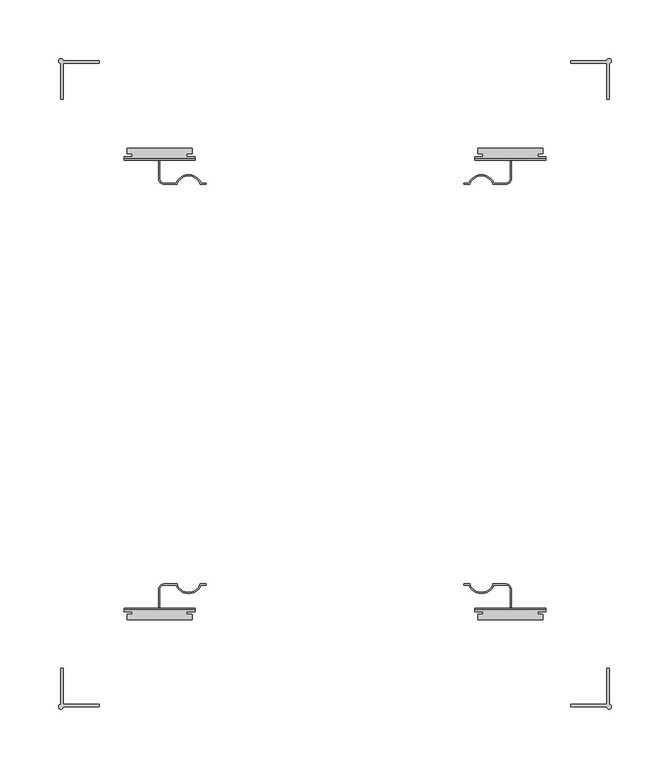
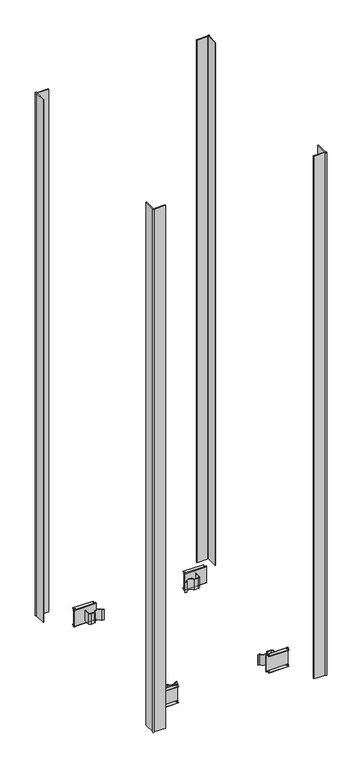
"""IFC4 building model written with IfcOpenShell, lengths in millimetres: column geometry, Облицовка колонн : КНАУФ-Файерборд три слоя."""

from ifc_helpers import new_model, si_unit, point, frame, frame_2d, origin, origin_with_axes, place, context, project, spatial, polyline, circle_curve, trimmed, segment, composite_curve, outline, extrude, source, transform, mapped, element, save
from ifc_brep_helpers import plane_surface, cylinder_surface, advanced_brep


def column_57e66f01(model_context):
    return source(origin(), model_context, "Body", "SolidModel", [
        extrude(outline(composite_curve([segment(polyline([(-201.5, -274.0), (-201.5, -276.0311253), (-232.5, -276.0311253)]), True, "CONTINUOUS"), segment(trimmed(circle_curve(frame_2d((-234.4874508, -276.0311253)), 1.9874508), [point((-232.5, -276.0311253))], [point((-234.4874508, -274.0436745))], False, "CARTESIAN"), True, "CONTINUOUS"), segment(polyline([(-234.4874508, -274.0436745), (-234.4874508, -243.0), (-232.5, -243.0), (-232.5, -274.0), (-201.5, -274.0)]), True, "CONTINUOUS")], self_intersect=False)), origin_with_axes(), (0.0, 0.0, 1.0), 1500.0),
        extrude(outline(composite_curve([segment(polyline([(-201.5, 274.0), (-232.5, 274.0), (-232.5, 243.0), (-234.4874508, 243.0), (-234.4874508, 274.0436745)]), True, "CONTINUOUS"), segment(trimmed(circle_curve(frame_2d((-234.4874508, 276.0311253)), 1.9874508), [point((-234.4874508, 274.0436745))], [point((-232.5, 276.0311253))], False, "CARTESIAN"), True, "CONTINUOUS"), segment(polyline([(-232.5, 276.0311253), (-201.5, 276.0311253), (-201.5, 274.0)]), True, "CONTINUOUS")], self_intersect=False)), origin_with_axes(), (0.0, 0.0, 1.0), 1500.0),
        extrude(outline(composite_curve([segment(polyline([(201.5, -274.0), (232.5, -274.0), (232.5, -243.0), (234.4874508, -243.0), (234.4874508, -274.0436745)]), True, "CONTINUOUS"), segment(trimmed(circle_curve(frame_2d((234.4874508, -276.0311253)), 1.9874508), [point((234.4874508, -274.0436745))], [point((232.5, -276.0311253))], False, "CARTESIAN"), True, "CONTINUOUS"), segment(polyline([(232.5, -276.0311253), (201.5, -276.0311253), (201.5, -274.0)]), True, "CONTINUOUS")], self_intersect=False)), origin_with_axes(), (0.0, 0.0, 1.0), 1500.0),
        extrude(outline(composite_curve([segment(polyline([(201.5, 274.0), (201.5, 276.0311253), (232.5, 276.0311253)]), True, "CONTINUOUS"), segment(trimmed(circle_curve(frame_2d((234.4874508, 276.0311253)), 1.9874508), [point((232.5, 276.0311253))], [point((234.4874508, 274.0436745))], False, "CARTESIAN"), True, "CONTINUOUS"), segment(polyline([(234.4874508, 274.0436745), (234.4874508, 243.0), (232.5, 243.0), (232.5, 274.0), (201.5, 274.0)]), True, "CONTINUOUS")], self_intersect=False)), origin_with_axes(), (0.0, 0.0, 1.0), 1500.0),
        advanced_brep(
        [(-180.2, 191.5, 46.0), (-180.2, 192.5, 47.0), (-180.2, 194.5, 47.0), (-180.2, 194.5, 46.0), (-180.2, 192.5, 46.0), (-180.2, 192.5, 0.0), (-180.2, 194.5, 0.0), (-180.2, 194.5, -1.0), (-180.2, 192.5, -1.0), (-180.2, 191.5, 0.0), (-119.8, 191.5, 46.0), (-119.8, 191.5, 0.0), (-119.8, 192.5, -1.0), (-119.8, 194.5, -1.0), (-119.8, 194.5, 0.0), (-119.8, 192.5, 0.0), (-119.8, 192.5, 46.0), (-119.8, 194.5, 46.0), (-119.8, 194.5, 47.0), (-119.8, 192.5, 47.0), (-126.6838154, 194.5, 47.0), (-126.6838154, 196.8, 47.0), (-122.2, 196.8, 47.0), (-122.2, 201.5, 47.0), (-177.8, 201.5, 47.0), (-177.8, 196.8, 47.0), (-173.3161846, 196.8, 47.0), (-173.3161846, 194.5, 47.0), (-177.8, 201.5, 46.0), (-122.2, 201.5, 46.0), (-173.3161846, 194.5, 46.0), (-173.3161846, 196.8, 46.0), (-177.8, 196.8, 46.0), (-122.2, 196.8, 46.0), (-126.6838154, 196.8, 46.0), (-126.6838154, 194.5, 46.0), (-126.6838154, 194.5, 0.0), (-126.6838154, 196.8, 0.0), (-122.2, 196.8, 0.0), (-122.2, 201.5, 0.0), (-177.8, 201.5, 0.0), (-177.8, 196.8, 0.0), (-173.3161846, 196.8, 0.0), (-173.3161846, 194.5, 0.0), (-177.8, 201.5, -1.0), (-122.2, 201.5, -1.0), (-173.3161846, 194.5, -1.0), (-173.3161846, 196.8, -1.0), (-177.8, 196.8, -1.0), (-122.2, 196.8, -1.0), (-126.6838154, 196.8, -1.0), (-126.6838154, 194.5, -1.0)],
        [
            (0, 1, circle_curve(frame((-180.2, 192.5, 46.0), z_axis=(-1.0, 0.0, 0.0), x_axis=(0.0, -1.0, 0.0)), 1.0)),
            (1, 2),
            (2, 3),
            (3, 4),
            (4, 5),
            (5, 6),
            (6, 7),
            (7, 8),
            (8, 9, circle_curve(frame((-180.2, 192.5, 0.0), z_axis=(-1.0, 0.0, 0.0), x_axis=(0.0, -1.0, 0.0)), 1.0)),
            (9, 0),
            (10, 11),
            (11, 12, circle_curve(frame((-119.8, 192.5, 0.0), z_axis=(1.0, 0.0, 0.0), x_axis=(0.0, -1.0, 0.0)), 1.0)),
            (12, 13),
            (13, 14),
            (14, 15),
            (15, 16),
            (16, 17),
            (17, 18),
            (18, 19),
            (19, 10, circle_curve(frame((-119.8, 192.5, 46.0), z_axis=(1.0, 0.0, 0.0), x_axis=(0.0, -1.0, 0.0)), 1.0)),
            (0, 10),
            (19, 1),
            (18, 20),
            (20, 21),
            (21, 22),
            (22, 23),
            (23, 24),
            (24, 25),
            (25, 26),
            (26, 27),
            (27, 2),
            (28, 24),
            (23, 29),
            (29, 28),
            (16, 4),
            (3, 30),
            (30, 31),
            (31, 32),
            (32, 28),
            (29, 33),
            (33, 34),
            (34, 35),
            (35, 17),
            (15, 5),
            (14, 36),
            (36, 37),
            (37, 38),
            (38, 39),
            (39, 40),
            (40, 41),
            (41, 42),
            (42, 43),
            (43, 6),
            (44, 40),
            (39, 45),
            (45, 44),
            (12, 8),
            (7, 46),
            (46, 47),
            (47, 48),
            (48, 44),
            (45, 49),
            (49, 50),
            (50, 51),
            (51, 13),
            (11, 9),
            (30, 27),
            (26, 31),
            (46, 43),
            (42, 47),
            (25, 32),
            (41, 48),
            (34, 21),
            (20, 35),
            (50, 37),
            (36, 51),
            (33, 22),
            (49, 38),
        ],
        [
            plane_surface(frame((-180.2, 191.5, 46.0), z_axis=(-1.0, 0.0, 0.0), x_axis=(0.0, 0.0, 1.0))),
            plane_surface(frame((-119.8, 191.5, 46.0), z_axis=(1.0, 0.0, 0.0), x_axis=(0.0, 0.0, -1.0))),
            cylinder_surface(frame((-119.8, 192.5, 46.0), z_axis=(-1.0, 0.0, 0.0), x_axis=(0.0, -1.0, 0.0)), 1.0),
            plane_surface(frame((-180.2, 192.5, 47.0), z_axis=(0.0, 0.0, 1.0), x_axis=(1.0, 0.0, 0.0))),
            plane_surface(frame((-180.2, 201.5, 47.0), z_axis=(0.0, 1.0, 0.0), x_axis=(1.0, 0.0, 0.0))),
            plane_surface(frame((-180.2, 201.5, 46.0), z_axis=(0.0, 0.0, -1.0), x_axis=(1.0, 0.0, 0.0))),
            plane_surface(frame((-180.2, 192.5, 46.0), z_axis=(0.0, 1.0, 0.0), x_axis=(1.0, 0.0, 0.0))),
            plane_surface(frame((-180.2, 192.5, 0.0), z_axis=(0.0, 0.0, 1.0), x_axis=(1.0, 0.0, 0.0))),
            plane_surface(frame((-180.2, 201.5, 0.0), z_axis=(0.0, 1.0, 0.0), x_axis=(1.0, 0.0, 0.0))),
            plane_surface(frame((-180.2, 201.5, -1.0), z_axis=(0.0, 0.0, -1.0), x_axis=(1.0, 0.0, 0.0))),
            cylinder_surface(frame((-119.8, 192.5, 0.0), z_axis=(-1.0, 0.0, 0.0), x_axis=(0.0, -1.0, 0.0)), 1.0),
            plane_surface(frame((-180.2, 191.5, 0.0), z_axis=(0.0, -1.0, 0.0), x_axis=(1.0, 0.0, 0.0))),
            plane_surface(frame((-173.3161846, 194.5, 47.0), z_axis=(-1.0, 0.0, 0.0), x_axis=(0.0, 0.0, -1.0))),
            plane_surface(frame((-173.3161846, 196.8, 47.0), z_axis=(0.0, -1.0, 0.0), x_axis=(0.0, 0.0, -1.0))),
            plane_surface(frame((-177.8, 196.8, 47.0), z_axis=(-1.0, 0.0, 0.0), x_axis=(0.0, 0.0, -1.0))),
            plane_surface(frame((-180.2, 194.5, 47.0), z_axis=(0.0, 1.0, 0.0), x_axis=(0.0, 0.0, -1.0))),
            plane_surface(frame((-126.6838154, 196.8, 47.0), z_axis=(1.0, 0.0, 0.0), x_axis=(0.0, 0.0, -1.0))),
            plane_surface(frame((-122.2, 196.8, 47.0), z_axis=(0.0, -1.0, 0.0), x_axis=(0.0, 0.0, -1.0))),
            plane_surface(frame((-122.2, 201.5, 47.0), z_axis=(1.0, 0.0, 0.0), x_axis=(0.0, 0.0, -1.0))),
            plane_surface(frame((-126.6838154, 194.5, 47.0), z_axis=(0.0, 1.0, 0.0), x_axis=(0.0, 0.0, -1.0))),
        ],
        [
            (0, [[1, 2, 3, 4, 5, 6, 7, 8, 9, 10]]),
            (1, [[11, 12, 13, 14, 15, 16, 17, 18, 19, 20]]),
            (2, [[-1, 21, -20, 22]]),
            (3, [[-22, -19, 23, 24, 25, 26, 27, 28, 29, 30, 31, -2]]),
            (4, [[32, -27, 33, 34]]),
            (5, [[35, -4, 36, 37, 38, 39, -34, 40, 41, 42, 43, -17]]),
            (6, [[-5, -35, -16, 44]]),
            (7, [[-44, -15, 45, 46, 47, 48, 49, 50, 51, 52, 53, -6]]),
            (8, [[54, -49, 55, 56]]),
            (9, [[57, -8, 58, 59, 60, 61, -56, 62, 63, 64, 65, -13]]),
            (10, [[-9, -57, -12, 66]]),
            (11, [[-10, -66, -11, -21]]),
            (12, [[67, -30, 68, -37]]),
            (12, [[69, -52, 70, -59]]),
            (13, [[-68, -29, 71, -38]]),
            (13, [[-70, -51, 72, -60]]),
            (14, [[-71, -28, -32, -39]]),
            (14, [[-72, -50, -54, -61]]),
            (15, [[-67, -36, -3, -31]]),
            (15, [[-69, -58, -7, -53]]),
            (16, [[73, -24, 74, -42]]),
            (16, [[75, -46, 76, -64]]),
            (17, [[-73, -41, 77, -25]]),
            (17, [[-75, -63, 78, -47]]),
            (18, [[-77, -40, -33, -26]]),
            (18, [[-78, -62, -55, -48]]),
            (19, [[-74, -23, -18, -43]]),
            (19, [[-76, -45, -14, -65]]),
        ],
    ),
        extrude(outline(composite_curve([segment(trimmed(circle_curve(frame_2d((-125.2, 167.4974781)), 10.5025219), [point((-115.2, 170.7073015))], [point((-135.2, 170.7073015))], True, "CARTESIAN"), True, "CONTINUOUS"), segment(polyline([(-135.2, 170.7073015), (-146.0, 170.7073015)]), True, "CONTINUOUS"), segment(trimmed(circle_curve(frame_2d((-146.0, 175.7073015)), 5.0), [point((-146.0, 170.7073015))], [point((-151.0, 175.7073015))], False, "CARTESIAN"), True, "CONTINUOUS"), segment(polyline([(-151.0, 175.7073015), (-151.0, 191.5), (-150.0, 191.5), (-150.0, 175.7073015)]), True, "CONTINUOUS"), segment(trimmed(circle_curve(frame_2d((-146.0, 175.7073015)), 4.0), [point((-150.0, 175.7073015))], [point((-146.0, 171.7073015))], True, "CARTESIAN"), True, "CONTINUOUS"), segment(polyline([(-146.0, 171.7073015), (-135.9044569, 171.7073015)]), True, "CONTINUOUS"), segment(trimmed(circle_curve(frame_2d((-125.2, 167.4974781)), 11.5025219), [point((-135.9044569, 171.7073015))], [point((-114.4955431, 171.7073015))], False, "CARTESIAN"), True, "CONTINUOUS"), segment(polyline([(-114.4955431, 171.7073015), (-110.2, 171.7073015), (-110.2, 170.7073015), (-115.2, 170.7073015)]), True, "CONTINUOUS")], self_intersect=False)), frame((0.0, 0.0, 8.0), z_axis=(0.0, 0.0, 1.0), x_axis=(1.0, 0.0, 0.0)), (0.0, 0.0, 1.0), 30.0),
        advanced_brep(
        [(180.2, 191.5, 46.0), (180.2, 191.5, 0.0), (180.2, 192.5, -1.0), (180.2, 194.5, -1.0), (180.2, 194.5, 0.0), (180.2, 192.5, 0.0), (180.2, 192.5, 46.0), (180.2, 194.5, 46.0), (180.2, 194.5, 47.0), (180.2, 192.5, 47.0), (119.8, 191.5, 46.0), (119.8, 192.5, 47.0), (119.8, 194.5, 47.0), (119.8, 194.5, 46.0), (119.8, 192.5, 46.0), (119.8, 192.5, 0.0), (119.8, 194.5, 0.0), (119.8, 194.5, -1.0), (119.8, 192.5, -1.0), (119.8, 191.5, 0.0), (173.3161846, 194.5, 47.0), (173.3161846, 196.8, 47.0), (177.8, 196.8, 47.0), (177.8, 201.5, 47.0), (122.2, 201.5, 47.0), (122.2, 196.8, 47.0), (126.6838154, 196.8, 47.0), (126.6838154, 194.5, 47.0), (177.8, 201.5, 46.0), (122.2, 201.5, 46.0), (126.6838154, 194.5, 46.0), (126.6838154, 196.8, 46.0), (122.2, 196.8, 46.0), (177.8, 196.8, 46.0), (173.3161846, 196.8, 46.0), (173.3161846, 194.5, 46.0), (173.3161846, 194.5, 0.0), (173.3161846, 196.8, 0.0), (177.8, 196.8, 0.0), (177.8, 201.5, 0.0), (122.2, 201.5, 0.0), (122.2, 196.8, 0.0), (126.6838154, 196.8, 0.0), (126.6838154, 194.5, 0.0), (177.8, 201.5, -1.0), (122.2, 201.5, -1.0), (126.6838154, 194.5, -1.0), (126.6838154, 196.8, -1.0), (122.2, 196.8, -1.0), (177.8, 196.8, -1.0), (173.3161846, 196.8, -1.0), (173.3161846, 194.5, -1.0)],
        [
            (0, 1),
            (1, 2, circle_curve(frame((180.2, 192.5, 0.0), z_axis=(1.0, 0.0, 0.0), x_axis=(0.0, -1.0, 0.0)), 1.0)),
            (2, 3),
            (3, 4),
            (4, 5),
            (5, 6),
            (6, 7),
            (7, 8),
            (8, 9),
            (9, 0, circle_curve(frame((180.2, 192.5, 46.0), z_axis=(1.0, 0.0, 0.0), x_axis=(0.0, -1.0, 0.0)), 1.0)),
            (10, 11, circle_curve(frame((119.8, 192.5, 46.0), z_axis=(-1.0, 0.0, 0.0), x_axis=(0.0, -1.0, 0.0)), 1.0)),
            (11, 12),
            (12, 13),
            (13, 14),
            (14, 15),
            (15, 16),
            (16, 17),
            (17, 18),
            (18, 19, circle_curve(frame((119.8, 192.5, 0.0), z_axis=(-1.0, 0.0, 0.0), x_axis=(0.0, -1.0, 0.0)), 1.0)),
            (19, 10),
            (9, 11),
            (10, 0),
            (8, 20),
            (20, 21),
            (21, 22),
            (22, 23),
            (23, 24),
            (24, 25),
            (25, 26),
            (26, 27),
            (27, 12),
            (28, 29),
            (29, 24),
            (23, 28),
            (13, 30),
            (30, 31),
            (31, 32),
            (32, 29),
            (28, 33),
            (33, 34),
            (34, 35),
            (35, 7),
            (6, 14),
            (5, 15),
            (4, 36),
            (36, 37),
            (37, 38),
            (38, 39),
            (39, 40),
            (40, 41),
            (41, 42),
            (42, 43),
            (43, 16),
            (44, 45),
            (45, 40),
            (39, 44),
            (17, 46),
            (46, 47),
            (47, 48),
            (48, 45),
            (44, 49),
            (49, 50),
            (50, 51),
            (51, 3),
            (2, 18),
            (1, 19),
            (34, 21),
            (20, 35),
            (50, 37),
            (36, 51),
            (33, 22),
            (49, 38),
            (30, 27),
            (26, 31),
            (46, 43),
            (42, 47),
            (25, 32),
            (41, 48),
        ],
        [
            plane_surface(frame((180.2, 191.5, 46.0), z_axis=(1.0, 0.0, 0.0), x_axis=(0.0, 0.0, 1.0))),
            plane_surface(frame((119.8, 191.5, 46.0), z_axis=(-1.0, 0.0, 0.0), x_axis=(0.0, 0.0, -1.0))),
            cylinder_surface(frame((119.8, 192.5, 46.0), z_axis=(1.0, 0.0, 0.0), x_axis=(0.0, -1.0, 0.0)), 1.0),
            plane_surface(frame((180.2, 192.5, 47.0), z_axis=(0.0, 0.0, 1.0), x_axis=(-1.0, 0.0, 0.0))),
            plane_surface(frame((180.2, 201.5, 47.0), z_axis=(0.0, 1.0, 0.0), x_axis=(-1.0, 0.0, 0.0))),
            plane_surface(frame((180.2, 201.5, 46.0), z_axis=(0.0, 0.0, -1.0), x_axis=(-1.0, 0.0, 0.0))),
            plane_surface(frame((180.2, 192.5, 46.0), z_axis=(0.0, 1.0, 0.0), x_axis=(-1.0, 0.0, 0.0))),
            plane_surface(frame((180.2, 192.5, 0.0), z_axis=(0.0, 0.0, 1.0), x_axis=(-1.0, 0.0, 0.0))),
            plane_surface(frame((180.2, 201.5, 0.0), z_axis=(0.0, 1.0, 0.0), x_axis=(-1.0, 0.0, 0.0))),
            plane_surface(frame((180.2, 201.5, -1.0), z_axis=(0.0, 0.0, -1.0), x_axis=(-1.0, 0.0, 0.0))),
            cylinder_surface(frame((119.8, 192.5, 0.0), z_axis=(1.0, 0.0, 0.0), x_axis=(0.0, -1.0, 0.0)), 1.0),
            plane_surface(frame((180.2, 191.5, 0.0), z_axis=(0.0, -1.0, 0.0), x_axis=(-1.0, 0.0, 0.0))),
            plane_surface(frame((173.3161846, 194.5, 47.0), z_axis=(1.0, 0.0, 0.0), x_axis=(0.0, 0.0, -1.0))),
            plane_surface(frame((173.3161846, 196.8, 47.0), z_axis=(0.0, -1.0, 0.0), x_axis=(0.0, 0.0, -1.0))),
            plane_surface(frame((177.8, 196.8, 47.0), z_axis=(1.0, 0.0, 0.0), x_axis=(0.0, 0.0, -1.0))),
            plane_surface(frame((180.2, 194.5, 47.0), z_axis=(0.0, 1.0, 0.0), x_axis=(0.0, 0.0, -1.0))),
            plane_surface(frame((126.6838154, 196.8, 47.0), z_axis=(-1.0, 0.0, 0.0), x_axis=(0.0, 0.0, -1.0))),
            plane_surface(frame((122.2, 196.8, 47.0), z_axis=(0.0, -1.0, 0.0), x_axis=(0.0, 0.0, -1.0))),
            plane_surface(frame((122.2, 201.5, 47.0), z_axis=(-1.0, 0.0, 0.0), x_axis=(0.0, 0.0, -1.0))),
            plane_surface(frame((126.6838154, 194.5, 47.0), z_axis=(0.0, 1.0, 0.0), x_axis=(0.0, 0.0, -1.0))),
        ],
        [
            (0, [[1, 2, 3, 4, 5, 6, 7, 8, 9, 10]]),
            (1, [[11, 12, 13, 14, 15, 16, 17, 18, 19, 20]]),
            (2, [[21, -11, 22, -10]]),
            (3, [[-9, 23, 24, 25, 26, 27, 28, 29, 30, 31, -12, -21]]),
            (4, [[32, 33, -27, 34]]),
            (5, [[-14, 35, 36, 37, 38, -32, 39, 40, 41, 42, -7, 43]]),
            (6, [[44, -15, -43, -6]]),
            (7, [[-5, 45, 46, 47, 48, 49, 50, 51, 52, 53, -16, -44]]),
            (8, [[54, 55, -49, 56]]),
            (9, [[-18, 57, 58, 59, 60, -54, 61, 62, 63, 64, -3, 65]]),
            (10, [[66, -19, -65, -2]]),
            (11, [[-22, -20, -66, -1]]),
            (12, [[-41, 67, -24, 68]]),
            (12, [[-63, 69, -46, 70]]),
            (13, [[-40, 71, -25, -67]]),
            (13, [[-62, 72, -47, -69]]),
            (14, [[-39, -34, -26, -71]]),
            (14, [[-61, -56, -48, -72]]),
            (15, [[-23, -8, -42, -68]]),
            (15, [[-45, -4, -64, -70]]),
            (16, [[-36, 73, -30, 74]]),
            (16, [[-58, 75, -52, 76]]),
            (17, [[-29, 77, -37, -74]]),
            (17, [[-51, 78, -59, -76]]),
            (18, [[-28, -33, -38, -77]]),
            (18, [[-50, -55, -60, -78]]),
            (19, [[-35, -13, -31, -73]]),
            (19, [[-57, -17, -53, -75]]),
        ],
    ),
        extrude(outline(composite_curve([segment(polyline([(115.2, 170.7073015), (110.2, 170.7073015), (110.2, 171.7073015), (114.4955431, 171.7073015)]), True, "CONTINUOUS"), segment(trimmed(circle_curve(frame_2d((125.2, 167.4974781)), 11.5025219), [point((114.4955431, 171.7073015))], [point((135.9044569, 171.7073015))], False, "CARTESIAN"), True, "CONTINUOUS"), segment(polyline([(135.9044569, 171.7073015), (146.0, 171.7073015)]), True, "CONTINUOUS"), segment(trimmed(circle_curve(frame_2d((146.0, 175.7073015)), 4.0), [point((146.0, 171.7073015))], [point((150.0, 175.7073015))], True, "CARTESIAN"), True, "CONTINUOUS"), segment(polyline([(150.0, 175.7073015), (150.0, 191.5), (151.0, 191.5), (151.0, 175.7073015)]), True, "CONTINUOUS"), segment(trimmed(circle_curve(frame_2d((146.0, 175.7073015)), 5.0), [point((151.0, 175.7073015))], [point((146.0, 170.7073015))], False, "CARTESIAN"), True, "CONTINUOUS"), segment(polyline([(146.0, 170.7073015), (135.2, 170.7073015)]), True, "CONTINUOUS"), segment(trimmed(circle_curve(frame_2d((125.2, 167.4974781)), 10.5025219), [point((135.2, 170.7073015))], [point((115.2, 170.7073015))], True, "CARTESIAN"), True, "CONTINUOUS")], self_intersect=False)), frame((0.0, 0.0, 8.0), z_axis=(0.0, 0.0, 1.0), x_axis=(1.0, 0.0, 0.0)), (0.0, 0.0, 1.0), 30.0),
        advanced_brep(
        [(-180.2, -191.5, 46.0), (-180.2, -191.5, 0.0), (-180.2, -192.5, -1.0), (-180.2, -194.5, -1.0), (-180.2, -194.5, 0.0), (-180.2, -192.5, 0.0), (-180.2, -192.5, 46.0), (-180.2, -194.5, 46.0), (-180.2, -194.5, 47.0), (-180.2, -192.5, 47.0), (-119.8, -191.5, 46.0), (-119.8, -192.5, 47.0), (-119.8, -194.5, 47.0), (-119.8, -194.5, 46.0), (-119.8, -192.5, 46.0), (-119.8, -192.5, 0.0), (-119.8, -194.5, 0.0), (-119.8, -194.5, -1.0), (-119.8, -192.5, -1.0), (-119.8, -191.5, 0.0), (-173.3161846, -194.5, 47.0), (-173.3161846, -196.8, 47.0), (-177.8, -196.8, 47.0), (-177.8, -201.5, 47.0), (-122.2, -201.5, 47.0), (-122.2, -196.8, 47.0), (-126.6838154, -196.8, 47.0), (-126.6838154, -194.5, 47.0), (-177.8, -201.5, 46.0), (-122.2, -201.5, 46.0), (-126.6838154, -194.5, 46.0), (-126.6838154, -196.8, 46.0), (-122.2, -196.8, 46.0), (-177.8, -196.8, 46.0), (-173.3161846, -196.8, 46.0), (-173.3161846, -194.5, 46.0), (-173.3161846, -194.5, 0.0), (-173.3161846, -196.8, 0.0), (-177.8, -196.8, 0.0), (-177.8, -201.5, 0.0), (-122.2, -201.5, 0.0), (-122.2, -196.8, 0.0), (-126.6838154, -196.8, 0.0), (-126.6838154, -194.5, 0.0), (-177.8, -201.5, -1.0), (-122.2, -201.5, -1.0), (-126.6838154, -194.5, -1.0), (-126.6838154, -196.8, -1.0), (-122.2, -196.8, -1.0), (-177.8, -196.8, -1.0), (-173.3161846, -196.8, -1.0), (-173.3161846, -194.5, -1.0)],
        [
            (0, 1),
            (1, 2, circle_curve(frame((-180.2, -192.5, 0.0), z_axis=(-1.0, 0.0, 0.0), x_axis=(0.0, 1.0, 0.0)), 1.0)),
            (2, 3),
            (3, 4),
            (4, 5),
            (5, 6),
            (6, 7),
            (7, 8),
            (8, 9),
            (9, 0, circle_curve(frame((-180.2, -192.5, 46.0), z_axis=(-1.0, 0.0, 0.0), x_axis=(0.0, 1.0, 0.0)), 1.0)),
            (10, 11, circle_curve(frame((-119.8, -192.5, 46.0), z_axis=(1.0, 0.0, 0.0), x_axis=(0.0, 1.0, 0.0)), 1.0)),
            (11, 12),
            (12, 13),
            (13, 14),
            (14, 15),
            (15, 16),
            (16, 17),
            (17, 18),
            (18, 19, circle_curve(frame((-119.8, -192.5, 0.0), z_axis=(1.0, 0.0, 0.0), x_axis=(0.0, 1.0, 0.0)), 1.0)),
            (19, 10),
            (9, 11),
            (10, 0),
            (8, 20),
            (20, 21),
            (21, 22),
            (22, 23),
            (23, 24),
            (24, 25),
            (25, 26),
            (26, 27),
            (27, 12),
            (28, 29),
            (29, 24),
            (23, 28),
            (13, 30),
            (30, 31),
            (31, 32),
            (32, 29),
            (28, 33),
            (33, 34),
            (34, 35),
            (35, 7),
            (6, 14),
            (5, 15),
            (4, 36),
            (36, 37),
            (37, 38),
            (38, 39),
            (39, 40),
            (40, 41),
            (41, 42),
            (42, 43),
            (43, 16),
            (44, 45),
            (45, 40),
            (39, 44),
            (17, 46),
            (46, 47),
            (47, 48),
            (48, 45),
            (44, 49),
            (49, 50),
            (50, 51),
            (51, 3),
            (2, 18),
            (1, 19),
            (34, 21),
            (20, 35),
            (50, 37),
            (36, 51),
            (33, 22),
            (49, 38),
            (30, 27),
            (26, 31),
            (46, 43),
            (42, 47),
            (25, 32),
            (41, 48),
        ],
        [
            plane_surface(frame((-180.2, -191.5, 46.0), z_axis=(-1.0, 0.0, 0.0), x_axis=(0.0, 0.0, 1.0))),
            plane_surface(frame((-119.8, -191.5, 46.0), z_axis=(1.0, 0.0, 0.0), x_axis=(0.0, 0.0, -1.0))),
            cylinder_surface(frame((-119.8, -192.5, 46.0), z_axis=(-1.0, 0.0, 0.0), x_axis=(0.0, 1.0, 0.0)), 1.0),
            plane_surface(frame((-180.2, -192.5, 47.0), z_axis=(0.0, 0.0, 1.0), x_axis=(1.0, 0.0, 0.0))),
            plane_surface(frame((-180.2, -201.5, 47.0), z_axis=(0.0, -1.0, 0.0), x_axis=(1.0, 0.0, 0.0))),
            plane_surface(frame((-180.2, -201.5, 46.0), z_axis=(0.0, 0.0, -1.0), x_axis=(1.0, 0.0, 0.0))),
            plane_surface(frame((-180.2, -192.5, 46.0), z_axis=(0.0, -1.0, 0.0), x_axis=(1.0, 0.0, 0.0))),
            plane_surface(frame((-180.2, -192.5, 0.0), z_axis=(0.0, 0.0, 1.0), x_axis=(1.0, 0.0, 0.0))),
            plane_surface(frame((-180.2, -201.5, 0.0), z_axis=(0.0, -1.0, 0.0), x_axis=(1.0, 0.0, 0.0))),
            plane_surface(frame((-180.2, -201.5, -1.0), z_axis=(0.0, 0.0, -1.0), x_axis=(1.0, 0.0, 0.0))),
            cylinder_surface(frame((-119.8, -192.5, 0.0), z_axis=(-1.0, 0.0, 0.0), x_axis=(0.0, 1.0, 0.0)), 1.0),
            plane_surface(frame((-180.2, -191.5, 0.0), z_axis=(0.0, 1.0, 0.0), x_axis=(1.0, 0.0, 0.0))),
            plane_surface(frame((-173.3161846, -194.5, 47.0), z_axis=(-1.0, 0.0, 0.0), x_axis=(0.0, 0.0, -1.0))),
            plane_surface(frame((-173.3161846, -196.8, 47.0), z_axis=(0.0, 1.0, 0.0), x_axis=(0.0, 0.0, -1.0))),
            plane_surface(frame((-177.8, -196.8, 47.0), z_axis=(-1.0, 0.0, 0.0), x_axis=(0.0, 0.0, -1.0))),
            plane_surface(frame((-180.2, -194.5, 47.0), z_axis=(0.0, -1.0, 0.0), x_axis=(0.0, 0.0, -1.0))),
            plane_surface(frame((-126.6838154, -196.8, 47.0), z_axis=(1.0, 0.0, 0.0), x_axis=(0.0, 0.0, -1.0))),
            plane_surface(frame((-122.2, -196.8, 47.0), z_axis=(0.0, 1.0, 0.0), x_axis=(0.0, 0.0, -1.0))),
            plane_surface(frame((-122.2, -201.5, 47.0), z_axis=(1.0, 0.0, 0.0), x_axis=(0.0, 0.0, -1.0))),
            plane_surface(frame((-126.6838154, -194.5, 47.0), z_axis=(0.0, -1.0, 0.0), x_axis=(0.0, 0.0, -1.0))),
        ],
        [
            (0, [[1, 2, 3, 4, 5, 6, 7, 8, 9, 10]]),
            (1, [[11, 12, 13, 14, 15, 16, 17, 18, 19, 20]]),
            (2, [[21, -11, 22, -10]]),
            (3, [[-9, 23, 24, 25, 26, 27, 28, 29, 30, 31, -12, -21]]),
            (4, [[32, 33, -27, 34]]),
            (5, [[-14, 35, 36, 37, 38, -32, 39, 40, 41, 42, -7, 43]]),
            (6, [[44, -15, -43, -6]]),
            (7, [[-5, 45, 46, 47, 48, 49, 50, 51, 52, 53, -16, -44]]),
            (8, [[54, 55, -49, 56]]),
            (9, [[-18, 57, 58, 59, 60, -54, 61, 62, 63, 64, -3, 65]]),
            (10, [[66, -19, -65, -2]]),
            (11, [[-22, -20, -66, -1]]),
            (12, [[-41, 67, -24, 68]]),
            (12, [[-63, 69, -46, 70]]),
            (13, [[-40, 71, -25, -67]]),
            (13, [[-62, 72, -47, -69]]),
            (14, [[-39, -34, -26, -71]]),
            (14, [[-61, -56, -48, -72]]),
            (15, [[-23, -8, -42, -68]]),
            (15, [[-45, -4, -64, -70]]),
            (16, [[-36, 73, -30, 74]]),
            (16, [[-58, 75, -52, 76]]),
            (17, [[-29, 77, -37, -74]]),
            (17, [[-51, 78, -59, -76]]),
            (18, [[-28, -33, -38, -77]]),
            (18, [[-50, -55, -60, -78]]),
            (19, [[-35, -13, -31, -73]]),
            (19, [[-57, -17, -53, -75]]),
        ],
    ),
        extrude(outline(composite_curve([segment(polyline([(-115.2, -170.7073015), (-110.2, -170.7073015), (-110.2, -171.7073015), (-114.4955431, -171.7073015)]), True, "CONTINUOUS"), segment(trimmed(circle_curve(frame_2d((-125.2, -167.4974781)), 11.5025219), [point((-114.4955431, -171.7073015))], [point((-135.9044569, -171.7073015))], False, "CARTESIAN"), True, "CONTINUOUS"), segment(polyline([(-135.9044569, -171.7073015), (-146.0, -171.7073015)]), True, "CONTINUOUS"), segment(trimmed(circle_curve(frame_2d((-146.0, -175.7073015)), 4.0), [point((-146.0, -171.7073015))], [point((-150.0, -175.7073015))], True, "CARTESIAN"), True, "CONTINUOUS"), segment(polyline([(-150.0, -175.7073015), (-150.0, -191.5), (-151.0, -191.5), (-151.0, -175.7073015)]), True, "CONTINUOUS"), segment(trimmed(circle_curve(frame_2d((-146.0, -175.7073015)), 5.0), [point((-151.0, -175.7073015))], [point((-146.0, -170.7073015))], False, "CARTESIAN"), True, "CONTINUOUS"), segment(polyline([(-146.0, -170.7073015), (-135.2, -170.7073015)]), True, "CONTINUOUS"), segment(trimmed(circle_curve(frame_2d((-125.2, -167.4974781)), 10.5025219), [point((-135.2, -170.7073015))], [point((-115.2, -170.7073015))], True, "CARTESIAN"), True, "CONTINUOUS")], self_intersect=False)), frame((0.0, 0.0, 8.0), z_axis=(0.0, 0.0, 1.0), x_axis=(1.0, 0.0, 0.0)), (0.0, 0.0, 1.0), 30.0),
        advanced_brep(
        [(180.2, -191.5, 46.0), (180.2, -192.5, 47.0), (180.2, -194.5, 47.0), (180.2, -194.5, 46.0), (180.2, -192.5, 46.0), (180.2, -192.5, 0.0), (180.2, -194.5, 0.0), (180.2, -194.5, -1.0), (180.2, -192.5, -1.0), (180.2, -191.5, 0.0), (119.8, -191.5, 46.0), (119.8, -191.5, 0.0), (119.8, -192.5, -1.0), (119.8, -194.5, -1.0), (119.8, -194.5, 0.0), (119.8, -192.5, 0.0), (119.8, -192.5, 46.0), (119.8, -194.5, 46.0), (119.8, -194.5, 47.0), (119.8, -192.5, 47.0), (126.6838154, -194.5, 47.0), (126.6838154, -196.8, 47.0), (122.2, -196.8, 47.0), (122.2, -201.5, 47.0), (177.8, -201.5, 47.0), (177.8, -196.8, 47.0), (173.3161846, -196.8, 47.0), (173.3161846, -194.5, 47.0), (177.8, -201.5, 46.0), (122.2, -201.5, 46.0), (173.3161846, -194.5, 46.0), (173.3161846, -196.8, 46.0), (177.8, -196.8, 46.0), (122.2, -196.8, 46.0), (126.6838154, -196.8, 46.0), (126.6838154, -194.5, 46.0), (126.6838154, -194.5, 0.0), (126.6838154, -196.8, 0.0), (122.2, -196.8, 0.0), (122.2, -201.5, 0.0), (177.8, -201.5, 0.0), (177.8, -196.8, 0.0), (173.3161846, -196.8, 0.0), (173.3161846, -194.5, 0.0), (177.8, -201.5, -1.0), (122.2, -201.5, -1.0), (173.3161846, -194.5, -1.0), (173.3161846, -196.8, -1.0), (177.8, -196.8, -1.0), (122.2, -196.8, -1.0), (126.6838154, -196.8, -1.0), (126.6838154, -194.5, -1.0)],
        [
            (0, 1, circle_curve(frame((180.2, -192.5, 46.0), z_axis=(1.0, 0.0, 0.0), x_axis=(0.0, 1.0, 0.0)), 1.0)),
            (1, 2),
            (2, 3),
            (3, 4),
            (4, 5),
            (5, 6),
            (6, 7),
            (7, 8),
            (8, 9, circle_curve(frame((180.2, -192.5, 0.0), z_axis=(1.0, 0.0, 0.0), x_axis=(0.0, 1.0, 0.0)), 1.0)),
            (9, 0),
            (10, 11),
            (11, 12, circle_curve(frame((119.8, -192.5, 0.0), z_axis=(-1.0, 0.0, 0.0), x_axis=(0.0, 1.0, 0.0)), 1.0)),
            (12, 13),
            (13, 14),
            (14, 15),
            (15, 16),
            (16, 17),
            (17, 18),
            (18, 19),
            (19, 10, circle_curve(frame((119.8, -192.5, 46.0), z_axis=(-1.0, 0.0, 0.0), x_axis=(0.0, 1.0, 0.0)), 1.0)),
            (0, 10),
            (19, 1),
            (18, 20),
            (20, 21),
            (21, 22),
            (22, 23),
            (23, 24),
            (24, 25),
            (25, 26),
            (26, 27),
            (27, 2),
            (28, 24),
            (23, 29),
            (29, 28),
            (16, 4),
            (3, 30),
            (30, 31),
            (31, 32),
            (32, 28),
            (29, 33),
            (33, 34),
            (34, 35),
            (35, 17),
            (15, 5),
            (14, 36),
            (36, 37),
            (37, 38),
            (38, 39),
            (39, 40),
            (40, 41),
            (41, 42),
            (42, 43),
            (43, 6),
            (44, 40),
            (39, 45),
            (45, 44),
            (12, 8),
            (7, 46),
            (46, 47),
            (47, 48),
            (48, 44),
            (45, 49),
            (49, 50),
            (50, 51),
            (51, 13),
            (11, 9),
            (30, 27),
            (26, 31),
            (46, 43),
            (42, 47),
            (25, 32),
            (41, 48),
            (34, 21),
            (20, 35),
            (50, 37),
            (36, 51),
            (33, 22),
            (49, 38),
        ],
        [
            plane_surface(frame((180.2, -191.5, 46.0), z_axis=(1.0, 0.0, 0.0), x_axis=(0.0, 0.0, 1.0))),
            plane_surface(frame((119.8, -191.5, 46.0), z_axis=(-1.0, 0.0, 0.0), x_axis=(0.0, 0.0, -1.0))),
            cylinder_surface(frame((119.8, -192.5, 46.0), z_axis=(1.0, 0.0, 0.0), x_axis=(0.0, 1.0, 0.0)), 1.0),
            plane_surface(frame((180.2, -192.5, 47.0), z_axis=(0.0, 0.0, 1.0), x_axis=(-1.0, 0.0, 0.0))),
            plane_surface(frame((180.2, -201.5, 47.0), z_axis=(0.0, -1.0, 0.0), x_axis=(-1.0, 0.0, 0.0))),
            plane_surface(frame((180.2, -201.5, 46.0), z_axis=(0.0, 0.0, -1.0), x_axis=(-1.0, 0.0, 0.0))),
            plane_surface(frame((180.2, -192.5, 46.0), z_axis=(0.0, -1.0, 0.0), x_axis=(-1.0, 0.0, 0.0))),
            plane_surface(frame((180.2, -192.5, 0.0), z_axis=(0.0, 0.0, 1.0), x_axis=(-1.0, 0.0, 0.0))),
            plane_surface(frame((180.2, -201.5, 0.0), z_axis=(0.0, -1.0, 0.0), x_axis=(-1.0, 0.0, 0.0))),
            plane_surface(frame((180.2, -201.5, -1.0), z_axis=(0.0, 0.0, -1.0), x_axis=(-1.0, 0.0, 0.0))),
            cylinder_surface(frame((119.8, -192.5, 0.0), z_axis=(1.0, 0.0, 0.0), x_axis=(0.0, 1.0, 0.0)), 1.0),
            plane_surface(frame((180.2, -191.5, 0.0), z_axis=(0.0, 1.0, 0.0), x_axis=(-1.0, 0.0, 0.0))),
            plane_surface(frame((173.3161846, -194.5, 47.0), z_axis=(1.0, 0.0, 0.0), x_axis=(0.0, 0.0, -1.0))),
            plane_surface(frame((173.3161846, -196.8, 47.0), z_axis=(0.0, 1.0, 0.0), x_axis=(0.0, 0.0, -1.0))),
            plane_surface(frame((177.8, -196.8, 47.0), z_axis=(1.0, 0.0, 0.0), x_axis=(0.0, 0.0, -1.0))),
            plane_surface(frame((180.2, -194.5, 47.0), z_axis=(0.0, -1.0, 0.0), x_axis=(0.0, 0.0, -1.0))),
            plane_surface(frame((126.6838154, -196.8, 47.0), z_axis=(-1.0, 0.0, 0.0), x_axis=(0.0, 0.0, -1.0))),
            plane_surface(frame((122.2, -196.8, 47.0), z_axis=(0.0, 1.0, 0.0), x_axis=(0.0, 0.0, -1.0))),
            plane_surface(frame((122.2, -201.5, 47.0), z_axis=(-1.0, 0.0, 0.0), x_axis=(0.0, 0.0, -1.0))),
            plane_surface(frame((126.6838154, -194.5, 47.0), z_axis=(0.0, -1.0, 0.0), x_axis=(0.0, 0.0, -1.0))),
        ],
        [
            (0, [[1, 2, 3, 4, 5, 6, 7, 8, 9, 10]]),
            (1, [[11, 12, 13, 14, 15, 16, 17, 18, 19, 20]]),
            (2, [[-1, 21, -20, 22]]),
            (3, [[-22, -19, 23, 24, 25, 26, 27, 28, 29, 30, 31, -2]]),
            (4, [[32, -27, 33, 34]]),
            (5, [[35, -4, 36, 37, 38, 39, -34, 40, 41, 42, 43, -17]]),
            (6, [[-5, -35, -16, 44]]),
            (7, [[-44, -15, 45, 46, 47, 48, 49, 50, 51, 52, 53, -6]]),
            (8, [[54, -49, 55, 56]]),
            (9, [[57, -8, 58, 59, 60, 61, -56, 62, 63, 64, 65, -13]]),
            (10, [[-9, -57, -12, 66]]),
            (11, [[-10, -66, -11, -21]]),
            (12, [[67, -30, 68, -37]]),
            (12, [[69, -52, 70, -59]]),
            (13, [[-68, -29, 71, -38]]),
            (13, [[-70, -51, 72, -60]]),
            (14, [[-71, -28, -32, -39]]),
            (14, [[-72, -50, -54, -61]]),
            (15, [[-67, -36, -3, -31]]),
            (15, [[-69, -58, -7, -53]]),
            (16, [[73, -24, 74, -42]]),
            (16, [[75, -46, 76, -64]]),
            (17, [[-73, -41, 77, -25]]),
            (17, [[-75, -63, 78, -47]]),
            (18, [[-77, -40, -33, -26]]),
            (18, [[-78, -62, -55, -48]]),
            (19, [[-74, -23, -18, -43]]),
            (19, [[-76, -45, -14, -65]]),
        ],
    ),
        extrude(outline(composite_curve([segment(trimmed(circle_curve(frame_2d((125.2, -167.4974781)), 10.5025219), [point((115.2, -170.7073015))], [point((135.2, -170.7073015))], True, "CARTESIAN"), True, "CONTINUOUS"), segment(polyline([(135.2, -170.7073015), (146.0, -170.7073015)]), True, "CONTINUOUS"), segment(trimmed(circle_curve(frame_2d((146.0, -175.7073015)), 5.0), [point((146.0, -170.7073015))], [point((151.0, -175.7073015))], False, "CARTESIAN"), True, "CONTINUOUS"), segment(polyline([(151.0, -175.7073015), (151.0, -191.5), (150.0, -191.5), (150.0, -175.7073015)]), True, "CONTINUOUS"), segment(trimmed(circle_curve(frame_2d((146.0, -175.7073015)), 4.0), [point((150.0, -175.7073015))], [point((146.0, -171.7073015))], True, "CARTESIAN"), True, "CONTINUOUS"), segment(polyline([(146.0, -171.7073015), (135.9044569, -171.7073015)]), True, "CONTINUOUS"), segment(trimmed(circle_curve(frame_2d((125.2, -167.4974781)), 11.5025219), [point((135.9044569, -171.7073015))], [point((114.4955431, -171.7073015))], False, "CARTESIAN"), True, "CONTINUOUS"), segment(polyline([(114.4955431, -171.7073015), (110.2, -171.7073015), (110.2, -170.7073015), (115.2, -170.7073015)]), True, "CONTINUOUS")], self_intersect=False)), frame((0.0, 0.0, 8.0), z_axis=(0.0, 0.0, 1.0), x_axis=(1.0, 0.0, 0.0)), (0.0, 0.0, 1.0), 30.0),
    ])


if __name__ == "__main__":
    model = new_model("IFC4")
    model_context = context("Model", 3, world=origin())
    ifc_project = project(units=[si_unit("LENGTHUNIT", "METRE", prefix="MILLI")], contexts=[model_context])
    site = spatial("IfcSite", under=ifc_project)
    building = spatial("IfcBuilding", under=site)
    placement = place(None, origin())
    column_shape = column_57e66f01(model_context)
    element("IfcColumn", 1, ObjectType="Облицовка колонн : КНАУФ-Файерборд три слоя", at=placement, inside=building, context=model_context, shape_type="MappedRepresentation", body=[
        mapped(column_shape, transform((0.0, 0.0, 0.0), x_axis=(1.0, 0.0, 0.0), y_axis=(0.0, 1.0, 0.0), z_axis=(0.0, 0.0, 1.0))),
    ])
    save(model, "model.ifc")
